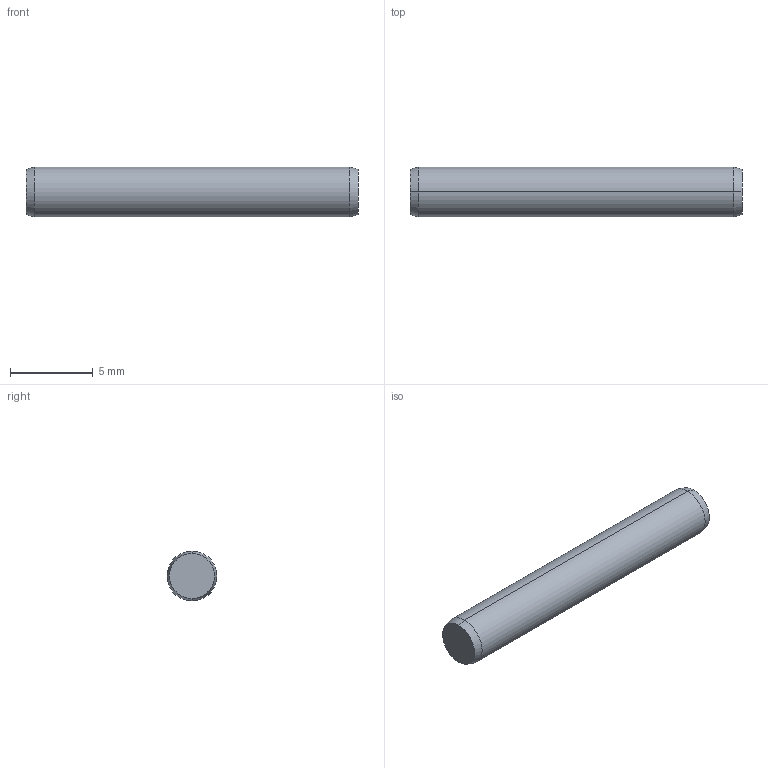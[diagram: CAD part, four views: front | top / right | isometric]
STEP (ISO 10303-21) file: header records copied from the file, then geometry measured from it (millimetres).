
FILE_DESCRIPTION (( 'STEP AP203' ), '1' );
FILE_NAME ('P1206.030-020.step', '2017-06-14T08:05:18', ( 'User' ), ( '' ), 'SwSTEP 2.0', 'SolidWorks 2009', '' );
FILE_SCHEMA (( 'CONFIG_CONTROL_DESIGN' ));
Length unit declared in the file: millimetre
Products named in the file (1): P1206.030-020
Bounding box: 20 x 3 x 3 mm (x, y, z)
Volume: 140.8 mm3; surface area: 200.1 mm2
Topology: 1 solids, 1 shells, 8 faces, 14 edges, 8 vertices
Faces by surface type: cone 4, cylinder 2, plane 2
Entity records: 271 total; most frequent: DIRECTION 40, CARTESIAN_POINT 31, ORIENTED_EDGE 28, AXIS2_PLACEMENT_3D 17, EDGE_CURVE 14, VERTEX_POINT 8, EDGE_LOOP 8, ADVANCED_FACE 8
